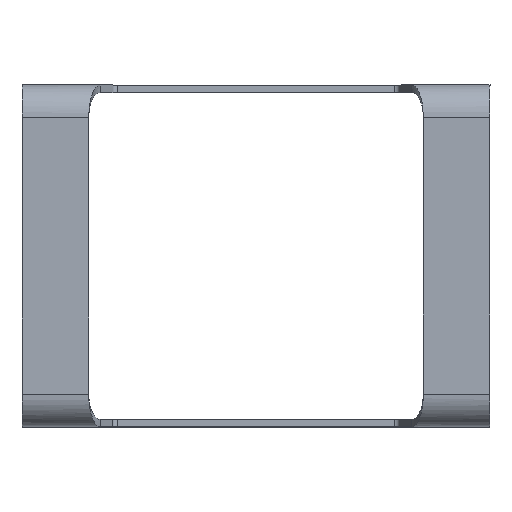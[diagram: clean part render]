
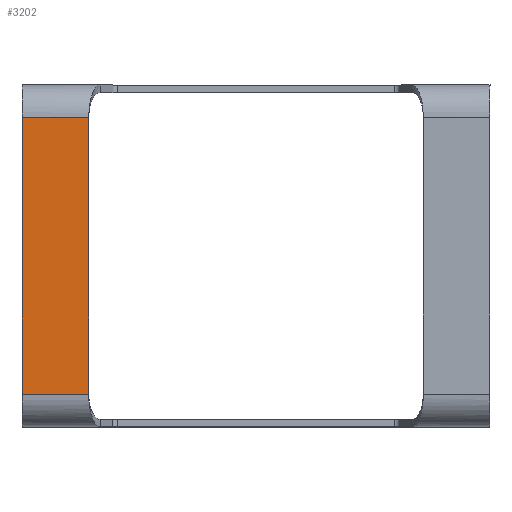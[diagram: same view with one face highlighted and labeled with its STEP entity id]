
A CAD part, top view. The second image highlights one B-rep face of the part: STEP entity #3202.
In plain terms, the highlighted planar face has unit normal (0, 0, 1).
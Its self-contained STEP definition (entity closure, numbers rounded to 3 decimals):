
#1270=DIRECTION('',(0.,-1.,0.));
#1271=VECTOR('',#1270,55.301);
#1272=CARTESIAN_POINT('',(-58.232,262.194,24.5));
#1273=LINE('',#1272,#1271);
#1692=DIRECTION('',(1.,0.,0.));
#1693=VECTOR('',#1692,13.332);
#1694=CARTESIAN_POINT('',(-71.563,262.194,24.5));
#1695=LINE('',#1694,#1693);
#1712=DIRECTION('',(0.,-1.,0.));
#1713=VECTOR('',#1712,55.301);
#1714=CARTESIAN_POINT('',(-71.563,262.194,24.5));
#1715=LINE('',#1714,#1713);
#1716=DIRECTION('',(-1.,0.,0.));
#1717=VECTOR('',#1716,13.332);
#1718=CARTESIAN_POINT('',(-58.233,206.893,24.5));
#1719=LINE('',#1718,#1717);
#2348=CARTESIAN_POINT('',(-58.233,206.893,24.5));
#2349=CARTESIAN_POINT('',(-71.565,206.893,24.5));
#2350=VERTEX_POINT('',#2348);
#2351=VERTEX_POINT('',#2349);
#2352=CARTESIAN_POINT('',(-71.563,262.194,24.5));
#2353=CARTESIAN_POINT('',(-58.232,262.194,24.5));
#2354=VERTEX_POINT('',#2352);
#2355=VERTEX_POINT('',#2353);
#3190=CARTESIAN_POINT('',(21.85,263.646,24.5));
#3191=DIRECTION('',(0.,0.,1.));
#3192=DIRECTION('',(1.,0.,0.));
#3193=AXIS2_PLACEMENT_3D('',#3190,#3191,#3192);
#3194=PLANE('',#3193);
#3195=ORIENTED_EDGE('',*,*,#3182,.T.);
#3196=ORIENTED_EDGE('',*,*,#2641,.T.);
#3198=ORIENTED_EDGE('',*,*,#3197,.T.);
#3199=ORIENTED_EDGE('',*,*,#2989,.F.);
#3200=EDGE_LOOP('',(#3195,#3196,#3198,#3199));
#3201=FACE_OUTER_BOUND('',#3200,.F.);
#3202=ADVANCED_FACE('',(#3201),#3194,.T.);
#2641=EDGE_CURVE('',#2355,#2350,#1273,.T.);
#2989=EDGE_CURVE('',#2354,#2351,#1715,.T.);
#3182=EDGE_CURVE('',#2354,#2355,#1695,.T.);
#3197=EDGE_CURVE('',#2350,#2351,#1719,.T.);
